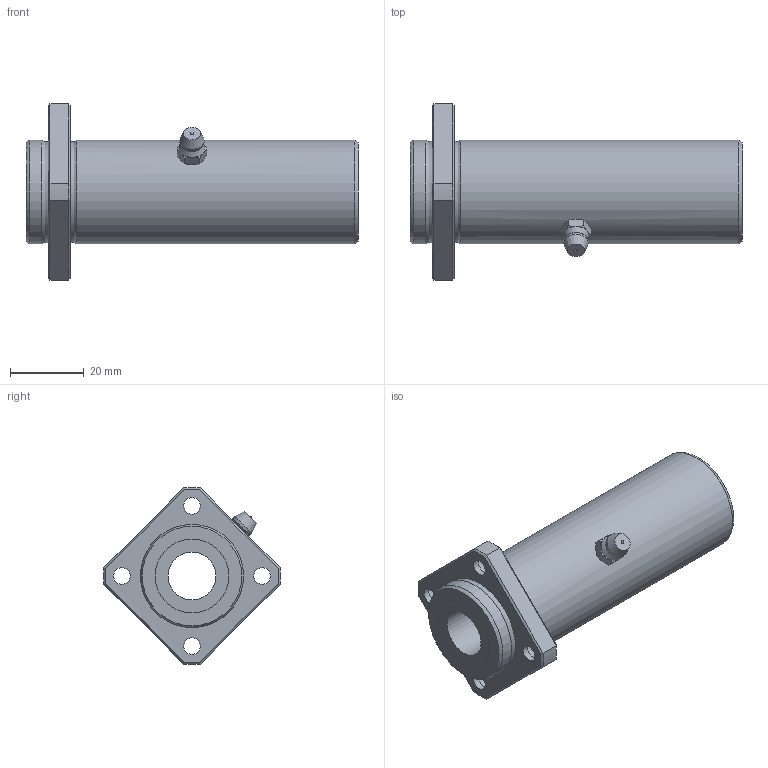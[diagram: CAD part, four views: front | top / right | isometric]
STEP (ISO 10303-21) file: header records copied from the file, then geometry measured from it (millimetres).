
FILE_DESCRIPTION((''),'2;1');
FILE_NAME('D:\製品 (図面)\カタログ用3D\リニアベアリング関連\STEP形式\LFLKB\LFLKB13.stp','2010-06-04T09:11:08',('Tsuchiya'),(''),'Autodesk Inventor 10','Autodesk Inventor 10','');
FILE_SCHEMA(('AUTOMOTIVE_DESIGN { 1 0 10303 214 1 1 1 1 }'));
Length unit declared in the file: millimetre
Products named in the file (1): LFLKB13
Bounding box: 90 x 47.98 x 47.98 mm (x, y, z)
Volume: 46981 mm3; surface area: 14840.7 mm2
Topology: 1 solids, 1 shells, 80 faces, 166 edges, 98 vertices
Faces by surface type: plane 28, cone 21, bspline 16, cylinder 11, sphere 2, torus 2
Full cylindrical faces by diameter (mm): 13 x1, 20 x2, 28 x2
Entity records: 2413 total; most frequent: CARTESIAN_POINT 879, DIRECTION 300, ORIENTED_EDGE 288, EDGE_CURVE 144, AXIS2_PLACEMENT_3D 133, EDGE_LOOP 122, VERTEX_POINT 96, FACE_OUTER_BOUND 80
